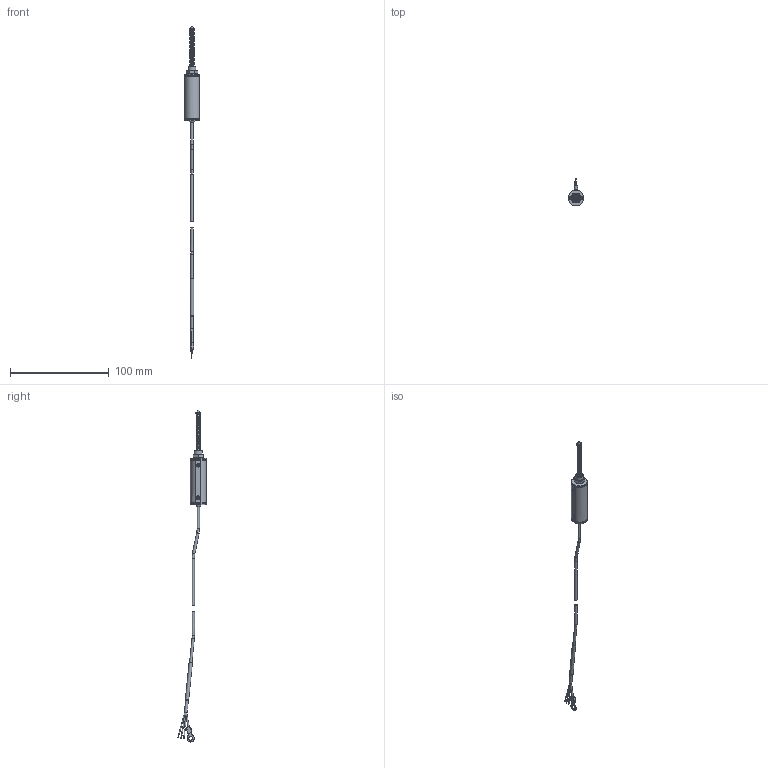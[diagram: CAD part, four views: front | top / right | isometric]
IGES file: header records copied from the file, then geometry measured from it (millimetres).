
Global section: file name: LPPS-MSL-015; native system: Autodesk Inventor 2020; preprocessor: unknown; author: J. Nielson; date: 20190829.152043; units: inch
Bounding box: 15.1 x 28.77 x 336.69 mm (x, y, z)
Volume: 5563.5 mm3; surface area: 10857.7 mm2
Topology: 24 solids, 24 shells, 339 faces, 855 edges, 577 vertices
Faces by surface type: bspline 339
